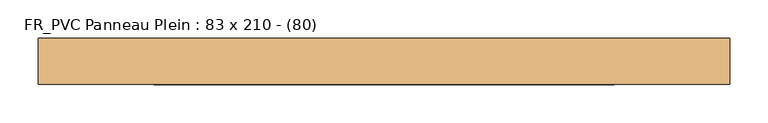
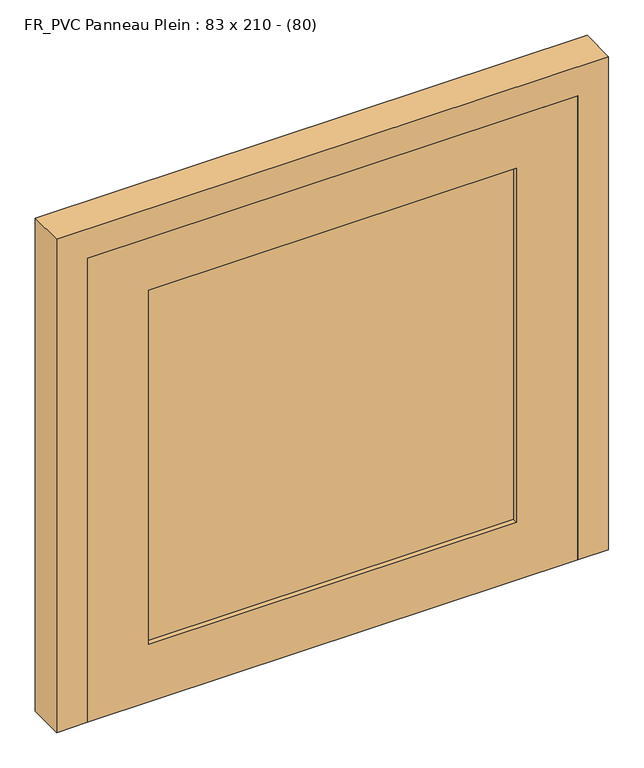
"""IFC4 building model written with IfcOpenShell, lengths in millimetres: door geometry, FR_PVC Panneau Plein : 83 x 210 - (80)."""

from ifc_helpers import new_model, si_unit, origin, place, context, project, spatial, faceted_brep, source, transform, mapped, element, save


def fr_pvc_panneau_plein_83_x_210_80_e6f7e799(model_context):
    return source(origin(), model_context, "Body", "Brep", [
        faceted_brep([(-450.0, -88.7935702, 0.0), (-450.0, -28.7935702, 0.0), (-385.0, -28.7935702, 0.0), (-385.0, -48.7935702, 0.0), (-400.0, -48.7935702, 0.0), (-400.0, -88.7935702, 0.0), (-450.0, -88.7935702, 850.0), (-450.0, -28.7935702, 850.0), (450.0, -28.7935702, 850.0), (450.0, -28.7935702, 0.0), (385.0, -28.7935702, 0.0), (385.0, -28.7935702, 785.0), (-385.0, -28.7935702, 785.0), (-385.0, -48.7935702, 785.0), (385.0, -48.7935702, 785.0), (385.0, -48.7935702, 0.0), (400.0, -48.7935702, 0.0), (400.0, -48.7935702, 800.0), (-400.0, -48.7935702, 800.0), (-400.0, -88.7935702, 800.0), (400.0, -88.7935702, 800.0), (400.0, -88.7935702, 0.0), (450.0, -88.7935702, 0.0), (450.0, -88.7935702, 850.0)], [[[0, 1, 2, 3, 4, 5]], [[1, 0, 6, 7]], [[2, 1, 7, 8, 9, 10, 11, 12]], [[3, 2, 12, 13]], [[4, 3, 13, 14, 15, 16, 17, 18]], [[5, 4, 18, 19]], [[0, 5, 19, 20, 21, 22, 23, 6]], [[9, 8, 23, 22]], [[10, 9, 22, 21, 16, 15]], [[11, 10, 15, 14]], [[17, 16, 21, 20]], [[7, 6, 23, 8]], [[12, 11, 14, 13]], [[18, 17, 20, 19]]]),
        faceted_brep([(-400.0, -88.7935702, 800.0), (-400.0, -88.7935702, 0.0), (400.0, -88.7935702, 0.0), (400.0, -88.7935702, 800.0), (300.0, -88.7935702, 710.0), (300.0, -88.7935702, 100.0), (-300.0, -88.7935702, 100.0), (-300.0, -88.7935702, 710.0), (-400.0, -48.7935702, 800.0), (400.0, -48.7935702, 800.0), (400.0, -48.7935702, 0.0), (-400.0, -48.7935702, 0.0), (-300.0, -48.7935702, 710.0), (-300.0, -48.7935702, 100.0), (300.0, -48.7935702, 100.0), (300.0, -48.7935702, 710.0), (300.0, -80.7935702, 710.0), (-300.0, -80.7935702, 710.0), (-300.0, -80.7935702, 100.0), (300.0, -80.7935702, 100.0), (-300.0, -56.7935702, 710.0), (300.0, -56.7935702, 710.0), (300.0, -56.7935702, 100.0), (-300.0, -56.7935702, 100.0)], [[[0, 1, 2, 3], [4, 5, 6, 7]], [[8, 9, 10, 11], [12, 13, 14, 15]], [[1, 0, 8, 11]], [[2, 1, 11, 10]], [[3, 2, 10, 9]], [[0, 3, 9, 8]], [[16, 17, 18, 19]], [[16, 19, 5, 4]], [[19, 18, 6, 5]], [[18, 17, 7, 6]], [[17, 16, 4, 7]], [[20, 21, 22, 23]], [[20, 23, 13, 12]], [[23, 22, 14, 13]], [[22, 21, 15, 14]], [[21, 20, 12, 15]]]),
    ])


if __name__ == "__main__":
    model = new_model("IFC4")
    model_context = context("Model", 3, world=origin())
    ifc_project = project(units=[si_unit("LENGTHUNIT", "METRE", prefix="MILLI")], contexts=[model_context])
    site = spatial("IfcSite", under=ifc_project)
    building = spatial("IfcBuilding", under=site)
    placement = place(None, origin())
    fr_pvc_panneau_plein_83_x_210_80_shape = fr_pvc_panneau_plein_83_x_210_80_e6f7e799(model_context)
    element("IfcDoor", 1, ObjectType="FR_PVC Panneau Plein : 83 x 210 - (80)", at=placement, inside=building, context=model_context, shape_type="MappedRepresentation", body=[
        mapped(fr_pvc_panneau_plein_83_x_210_80_shape, transform((0.0, 0.0, 0.0), x_axis=(1.0, 0.0, 0.0), y_axis=(0.0, 1.0, 0.0), z_axis=(0.0, 0.0, 1.0))),
    ])
    save(model, "model.ifc")
